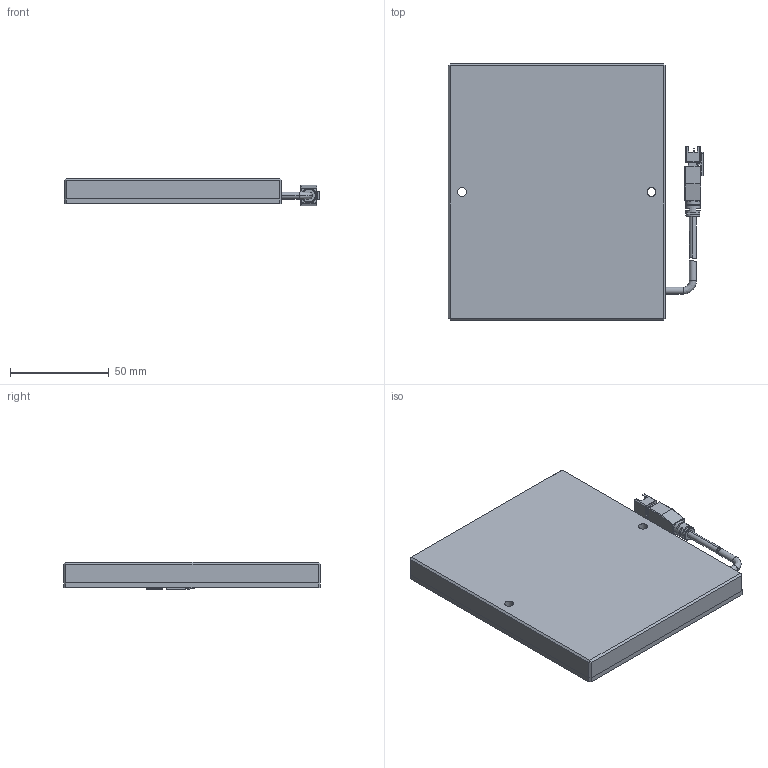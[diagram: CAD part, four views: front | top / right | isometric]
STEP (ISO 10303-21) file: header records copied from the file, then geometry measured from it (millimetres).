
FILE_DESCRIPTION (( 'STEP AP203' ), '1' );
FILE_NAME ('CRT-FLC9070-¼òÒ×3DÍ¼.STEP', '2021-12-10T02:10:07', ( 'Admin' ), ( '' ), 'SwSTEP 2.0', 'SolidWorks 2018', '' );
FILE_SCHEMA (( 'CONFIG_CONTROL_DESIGN' ));
Length unit declared in the file: millimetre
Products named in the file (1): CRT-FLC9070-潠眢3D芞
Bounding box: 129.45 x 130 x 14.1 mm (x, y, z)
Surface area: 48386.5 mm2 (no closed solid volume)
Topology: 0 solids, 5 shells, 235 faces, 690 edges, 437 vertices
Faces by surface type: plane 139, cylinder 68, bspline 23, cone 3, torus 2
Entity records: 8313 total; most frequent: CARTESIAN_POINT 2219, DIRECTION 1229, ORIENTED_EDGE 1203, EDGE_CURVE 678, LINE 449, VECTOR 449, VERTEX_POINT 437, AXIS2_PLACEMENT_3D 390
